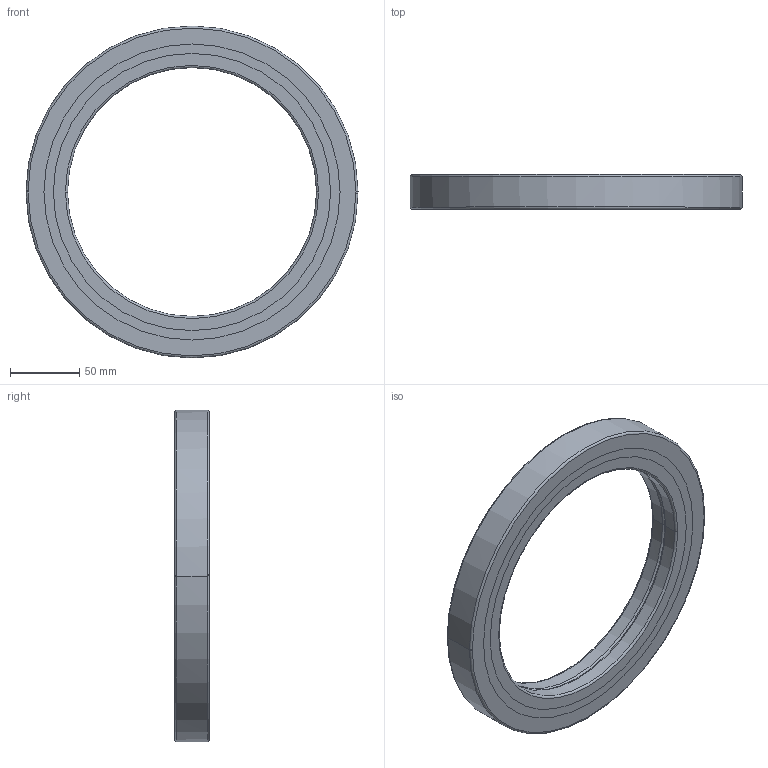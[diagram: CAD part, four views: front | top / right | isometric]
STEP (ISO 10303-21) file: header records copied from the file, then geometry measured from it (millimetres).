
FILE_DESCRIPTION(('no description'),'unknown implementation level');
FILE_NAME('CRBB18025_73.stp',' ',('HIWIN GmbH'),('CADClick - KiM GmbH - www.kimweb.de'),'unknown preprocess','ACIS','unknown authorization');
FILE_SCHEMA(('automotive_design'));
Length unit declared in the file: millimetre
Products named in the file (5): CRBB18025_1; CRBB18025_2; CRBB18025_3; CRBB18025_4; CRBB18025
Bounding box: 240 x 25 x 240 mm (x, y, z)
Volume: 397811.4 mm3; surface area: 128291.6 mm2
Topology: 5 solids, 5 shells, 54 faces, 120 edges, 76 vertices
Faces by surface type: torus 24, cylinder 20, plane 10
Entity records: 3096 total; most frequent: DIRECTION 338, STYLED_ITEM 255, PRESENTATION_STYLE_ASSIGNMENT 255, CARTESIAN_POINT 255, COLOUR_RGB 255, ORIENTED_EDGE 240, AXIS2_PLACEMENT_3D 159, EDGE_CURVE 120
